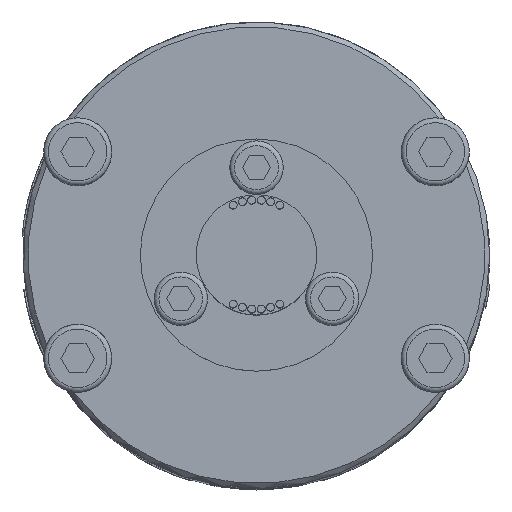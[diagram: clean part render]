
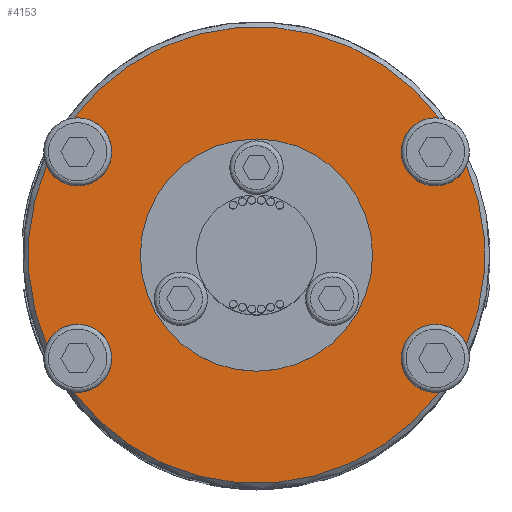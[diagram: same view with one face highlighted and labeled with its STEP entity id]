
A CAD part, top view. The second image highlights one B-rep face of the part: STEP entity #4153.
In plain terms, the highlighted planar face has unit normal (0, 0, 1).
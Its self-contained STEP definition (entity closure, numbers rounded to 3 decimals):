
#667=FACE_BOUND('',#7065,.T.);
#668=FACE_BOUND('',#7066,.T.);
#1030=CIRCLE('',#20868,11.95);
#1031=CIRCLE('',#20870,3.5);
#1032=CIRCLE('',#20871,23.5);
#1033=CIRCLE('',#20872,3.5);
#1034=CIRCLE('',#20873,23.5);
#1035=CIRCLE('',#20874,3.5);
#1036=CIRCLE('',#20875,23.5);
#1037=CIRCLE('',#20876,3.5);
#1038=CIRCLE('',#20877,23.5);
#4153=ADVANCED_FACE('',(#667,#668),#4710,.T.);
#4710=PLANE('',#20878);
#7065=EDGE_LOOP('',(#12657,#12658,#12659,#12660,#12661,#12662,#12663,#12664));
#7066=EDGE_LOOP('',(#12665));
#12657=ORIENTED_EDGE('',*,*,#17508,.F.);
#12658=ORIENTED_EDGE('',*,*,#17509,.T.);
#12659=ORIENTED_EDGE('',*,*,#17510,.F.);
#12660=ORIENTED_EDGE('',*,*,#17511,.T.);
#12661=ORIENTED_EDGE('',*,*,#17512,.F.);
#12662=ORIENTED_EDGE('',*,*,#17513,.T.);
#12663=ORIENTED_EDGE('',*,*,#17514,.F.);
#12664=ORIENTED_EDGE('',*,*,#17515,.T.);
#12665=ORIENTED_EDGE('',*,*,#17507,.F.);
#14728=VERTEX_POINT('',#41721);
#14729=VERTEX_POINT('',#41724);
#14730=VERTEX_POINT('',#41725);
#14731=VERTEX_POINT('',#41727);
#14732=VERTEX_POINT('',#41729);
#14733=VERTEX_POINT('',#41731);
#14734=VERTEX_POINT('',#41733);
#14735=VERTEX_POINT('',#41735);
#14736=VERTEX_POINT('',#41737);
#17507=EDGE_CURVE('',#14728,#14728,#1030,.T.);
#17508=EDGE_CURVE('',#14729,#14730,#1031,.T.);
#17509=EDGE_CURVE('',#14729,#14731,#1032,.T.);
#17510=EDGE_CURVE('',#14732,#14731,#1033,.T.);
#17511=EDGE_CURVE('',#14732,#14733,#1034,.T.);
#17512=EDGE_CURVE('',#14734,#14733,#1035,.T.);
#17513=EDGE_CURVE('',#14734,#14735,#1036,.T.);
#17514=EDGE_CURVE('',#14736,#14735,#1037,.T.);
#17515=EDGE_CURVE('',#14736,#14730,#1038,.T.);
#20868=AXIS2_PLACEMENT_3D('',#41720,#23991,#23992);
#20870=AXIS2_PLACEMENT_3D('',#41723,#23995,#23996);
#20871=AXIS2_PLACEMENT_3D('',#41726,#23997,#23998);
#20872=AXIS2_PLACEMENT_3D('',#41728,#23999,#24000);
#20873=AXIS2_PLACEMENT_3D('',#41730,#24001,#24002);
#20874=AXIS2_PLACEMENT_3D('',#41732,#24003,#24004);
#20875=AXIS2_PLACEMENT_3D('',#41734,#24005,#24006);
#20876=AXIS2_PLACEMENT_3D('',#41736,#24007,#24008);
#20877=AXIS2_PLACEMENT_3D('',#41738,#24009,#24010);
#20878=AXIS2_PLACEMENT_3D('',#41739,#24011,#24012);
#23991=DIRECTION('',(0.,0.,1.));
#23992=DIRECTION('',(0.,1.,0.));
#23995=DIRECTION('',(0.,0.,1.));
#23996=DIRECTION('',(1.,0.,0.));
#23997=DIRECTION('',(0.,0.,1.));
#23998=DIRECTION('',(1.,0.,0.));
#23999=DIRECTION('',(0.,0.,1.));
#24000=DIRECTION('',(1.,0.,0.));
#24001=DIRECTION('',(0.,0.,1.));
#24002=DIRECTION('',(1.,0.,0.));
#24003=DIRECTION('',(0.,0.,1.));
#24004=DIRECTION('',(1.,0.,0.));
#24005=DIRECTION('',(0.,0.,1.));
#24006=DIRECTION('',(1.,0.,0.));
#24007=DIRECTION('',(0.,0.,1.));
#24008=DIRECTION('',(1.,0.,0.));
#24009=DIRECTION('',(0.,0.,1.));
#24010=DIRECTION('',(1.,0.,0.));
#24011=DIRECTION('',(0.,0.,1.));
#24012=DIRECTION('',(1.,0.,0.));
#41720=CARTESIAN_POINT('',(0.,0.,114.));
#41721=CARTESIAN_POINT('',(0.,11.95,114.));
#41723=CARTESIAN_POINT('',(-18.403,-10.625,114.));
#41724=CARTESIAN_POINT('',(-18.798,-14.103,114.));
#41725=CARTESIAN_POINT('',(-21.612,-9.228,114.));
#41726=CARTESIAN_POINT('',(0.,0.,114.));
#41727=CARTESIAN_POINT('',(18.798,-14.103,114.));
#41728=CARTESIAN_POINT('',(18.403,-10.625,114.));
#41729=CARTESIAN_POINT('',(21.612,-9.228,114.));
#41730=CARTESIAN_POINT('',(0.,0.,114.));
#41731=CARTESIAN_POINT('',(21.612,9.228,114.));
#41732=CARTESIAN_POINT('',(18.403,10.625,114.));
#41733=CARTESIAN_POINT('',(18.798,14.103,114.));
#41734=CARTESIAN_POINT('',(0.,0.,114.));
#41735=CARTESIAN_POINT('',(-18.798,14.103,114.));
#41736=CARTESIAN_POINT('',(-18.403,10.625,114.));
#41737=CARTESIAN_POINT('',(-21.612,9.228,114.));
#41738=CARTESIAN_POINT('',(0.,0.,114.));
#41739=CARTESIAN_POINT('',(0.,0.,114.));
